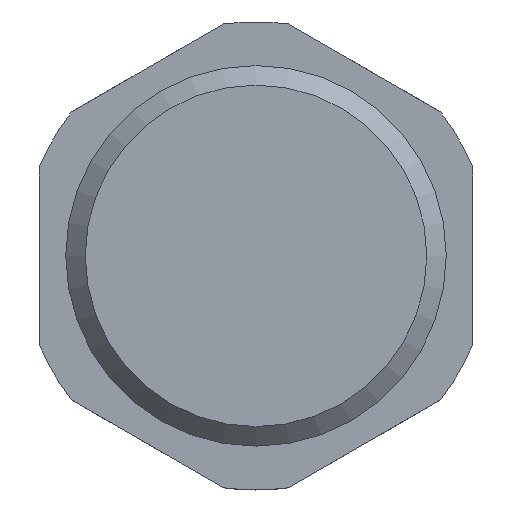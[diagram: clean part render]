
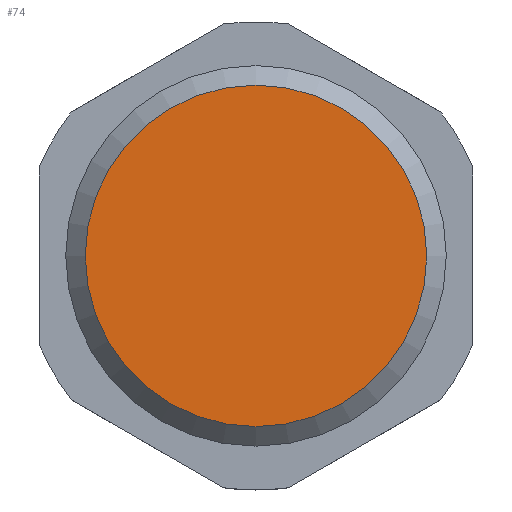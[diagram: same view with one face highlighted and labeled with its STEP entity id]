
A CAD part, front view. The second image highlights one B-rep face of the part: STEP entity #74.
In plain terms, the highlighted planar face has unit normal (0, -1, 0).
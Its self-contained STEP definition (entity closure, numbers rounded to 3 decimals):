
#74 = ADVANCED_FACE( '', ( #161 ), #162, .F. );
#161 = FACE_OUTER_BOUND( '', #285, .T. );
#162 = PLANE( '', #286 );
#285 = EDGE_LOOP( '', ( #426 ) );
#286 = AXIS2_PLACEMENT_3D( '', #427, #428, #429 );
#426 = ORIENTED_EDGE( '', *, *, #529, .T. );
#427 = CARTESIAN_POINT( '', ( 7.475, 0., 0. ) );
#428 = DIRECTION( '', ( 0., 1., 0. ) );
#429 = DIRECTION( '', ( 0., 0., 1. ) );
#529 = EDGE_CURVE( '', #615, #615, #616, .T. );
#615 = VERTEX_POINT( '', #732 );
#616 = CIRCLE( '', #733, 7.475 );
#732 = CARTESIAN_POINT( '', ( 0., 0., -7.475 ) );
#733 = AXIS2_PLACEMENT_3D( '', #882, #883, #884 );
#882 = CARTESIAN_POINT( '', ( 0., 0., 0. ) );
#883 = DIRECTION( '', ( 0., -1., 0. ) );
#884 = DIRECTION( '', ( 0., 0., -1. ) );
